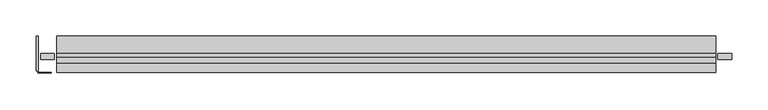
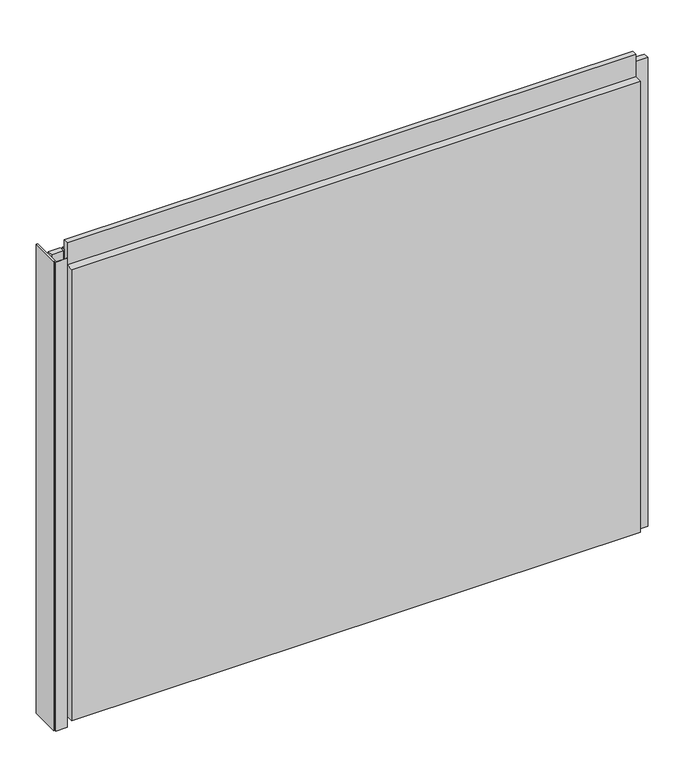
"""IFC4 building model written with IfcOpenShell, lengths in millimetres: plate geometry, Trimo_Qbiss Screen_Normal Panel-HORIZONTAL : HR - B."""

from ifc_helpers import new_model, si_unit, frame, origin, place, context, project, spatial, polyline, outline, extrude, source, transform, mapped, element, save


def plate_143d30e8(model_context):
    return source(origin(), model_context, "Body", "SweptSolid", [
        extrude(outline(polyline([(-462.75, 145.0), (-462.75, 95.0), (-445.25, 95.0), (-445.25, 94.2), (-463.55, 94.2), (-463.55, 144.2), (-464.55, 144.2), (-464.55, 97.0), (-465.35, 97.0), (-465.35, 145.0), (-462.75, 145.0)])), frame((0.0, 0.0, -1.0), z_axis=(0.0, 0.0, 1.0), x_axis=(1.0, 0.0, 0.0)), (0.0, 0.0, 1.0), 787.95),
        extrude(outline(polyline([(-440.75, 121.5978162), (-440.75, 112.8978162), (-459.75, 112.8978162), (-459.75, 121.5978162), (-440.75, 121.5978162)])), frame((0.0, 0.0, -1.0), z_axis=(0.0, 0.0, 1.0), x_axis=(1.0, 0.0, 0.0)), (0.0, 0.0, 1.0), 787.95),
        extrude(outline(polyline([(469.25, 112.8978162), (469.25, 121.5978162), (488.25, 121.5978162), (488.25, 112.8978162), (469.25, 112.8978162)])), frame((0.0, 0.0, -1.0), z_axis=(0.0, 0.0, 1.0), x_axis=(1.0, 0.0, 0.0)), (0.0, 0.0, 1.0), 787.95),
        extrude(outline(polyline([(466.25, 121.0), (466.25, 116.0), (-437.75, 116.0), (-437.75, 121.0), (466.25, 121.0)])), frame((0.0, 0.0, 765.95), z_axis=(0.0, 0.0, 1.0), x_axis=(1.0, 0.0, 0.0)), (0.0, 0.0, 1.0), 21.0),
        extrude(outline(polyline([(116.0, 764.95), (145.0, 764.95), (145.0, 0.0), (117.0, 0.0), (117.0, 15.5), (107.0, 15.5), (107.0, 7.0), (95.0, 7.0), (95.0, 764.95), (108.0, 764.95), (108.0, 802.45), (116.0, 802.45), (116.0, 764.95)])), frame((-437.75, 0.0, 0.0), z_axis=(1.0, 0.0, 0.0), x_axis=(0.0, 1.0, 0.0)), (0.0, 0.0, 1.0), 904.0),
    ])


if __name__ == "__main__":
    model = new_model("IFC4")
    model_context = context("Model", 3, world=origin())
    ifc_project = project(units=[si_unit("LENGTHUNIT", "METRE", prefix="MILLI")], contexts=[model_context])
    site = spatial("IfcSite", under=ifc_project)
    building = spatial("IfcBuilding", under=site)
    placement = place(None, origin())
    plate_shape = plate_143d30e8(model_context)
    element("IfcPlate", 1, ObjectType="Trimo_Qbiss Screen_Normal Panel-HORIZONTAL : HR - B", at=placement, inside=building, context=model_context, shape_type="MappedRepresentation", body=[
        mapped(plate_shape, transform((0.0, 0.0, 0.0), x_axis=(1.0, 0.0, 0.0), y_axis=(0.0, 1.0, 0.0), z_axis=(0.0, 0.0, 1.0))),
    ])
    save(model, "model.ifc")
